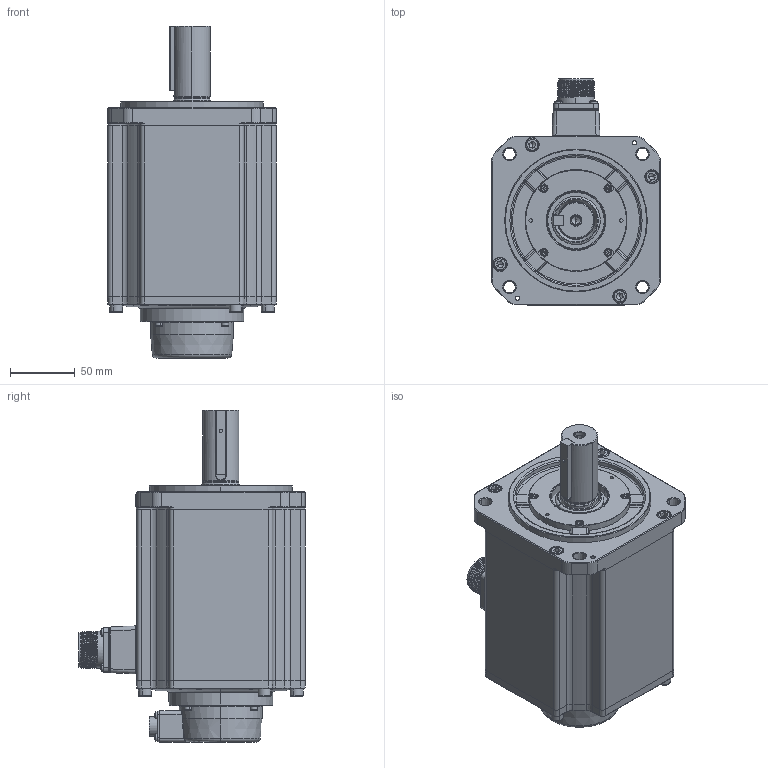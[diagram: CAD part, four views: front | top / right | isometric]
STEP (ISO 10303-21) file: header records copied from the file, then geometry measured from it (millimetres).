
FILE_DESCRIPTION (( 'STEP AP214' ), '1' );
FILE_NAME ('RSA1-S-130-3kw.STEP', '2024-08-12T02:17:52', ( '' ), ( '' ), 'SwSTEP 2.0', 'SolidWorks 2020', '' );
FILE_SCHEMA (( 'AUTOMOTIVE_DESIGN' ));
Length unit declared in the file: millimetre
Products named in the file (17): 130梓袧綴裔; 内六角圆柱头和平垫圈组合螺钉_M3x16; 内六角圆柱头螺钉_M6x20; 130-苤嫦講-粣噤28; 130-蚐猾_TC30x45x8(NBR); す瑩_B8x7x50; 130-S-3kw儂褲; 4140000005_电机内部编码器线_7x26AWG(0.1m-CMV1-10芯螺纹插座_GACJ3045); RSA1-S-130-3kw; 130-梓袧綴傷裔; 130-苤嫦講粣創裔啣; 坋趼羞攫芛蹟隊_M3x30; ﾊｮﾗﾖｲﾛﾅﾌﾍｷﾗﾔｼｷﾂﾝｶ､_M3x8; 内六角圆柱头螺钉_M3x10; 130雄薯瑤脣價釱; 130-S-ヶ傷裔; 雄薯瑤脣
Assembly tree (35 placements, depth 2):
  RSA1-S-130-3kw
    130-S-3kw儂褲
    130雄薯瑤脣價釱
    130-S-ヶ傷裔
    130-苤嫦講-粣噤28
    雄薯瑤脣
    130-苤嫦講粣創裔啣
    130-蚐猾_TC30x45x8(NBR)
    130-梓袧綴傷裔
    130梓袧綴裔
    4140000005_电机内部编码器线_7x26AWG(0.1m-CMV1-10芯螺纹插座_GACJ3045)
    内六角圆柱头螺钉_M6x20  x8
    内六角圆柱头和平垫圈组合螺钉_M3x16  x4
    内六角圆柱头螺钉_M3x10  x4
    坋趼羞攫芛蹟隊_M3x30  x4
    ﾊｮﾗﾖｲﾛﾅﾌﾍｷﾗﾔｼｷﾂﾝｶ､_M3x8  x4
    す瑩_B8x7x50
Bounding box: 130 x 174.4 x 255.9 mm (x, y, z)
Volume: 2419100.5 mm3; surface area: 266802.5 mm2
Topology: 46 solids, 46 shells, 2883 faces, 7139 edges, 4441 vertices
Faces by surface type: plane 1411, cylinder 748, cone 364, torus 197, bspline 115, sphere 48
Entity records: 97846 total; most frequent: CARTESIAN_POINT 24644, DIRECTION 12027, ORIENTED_EDGE 11850, EDGE_CURVE 5925, AXIS2_PLACEMENT_3D 4242, VERTEX_POINT 3738, LINE 3543, VECTOR 3543
